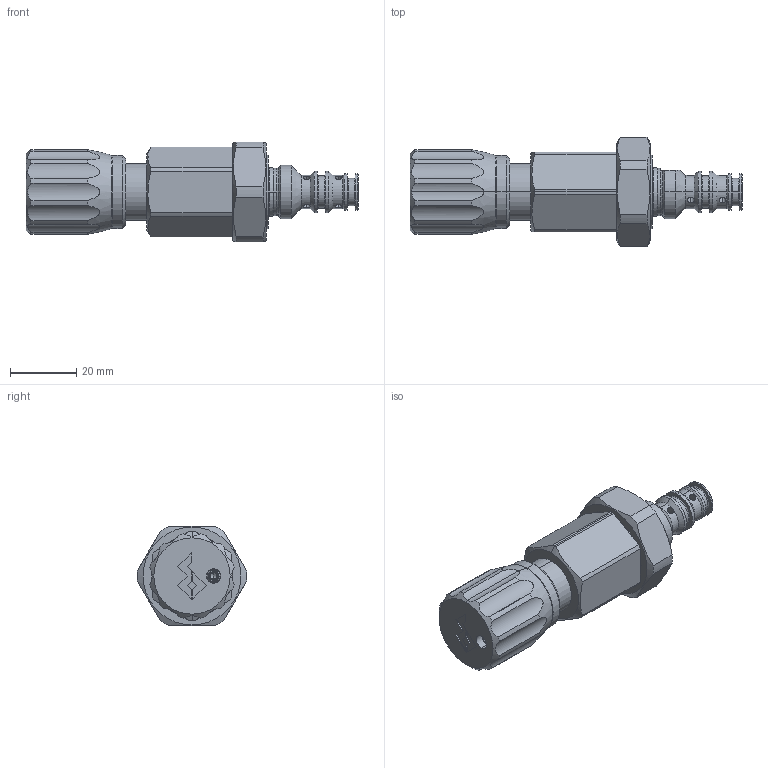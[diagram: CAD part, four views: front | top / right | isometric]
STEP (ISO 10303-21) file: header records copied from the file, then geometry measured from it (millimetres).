
FILE_DESCRIPTION (( 'STEP AP214' ), '1' );
FILE_NAME ('MDDPM16.STEP', '2014-07-14T12:23:34', ( '' ), ( '' ), 'SwSTEP 2.0', 'SolidWorks 2014', '' );
FILE_SCHEMA (( 'AUTOMOTIVE_DESIGN' ));
Length unit declared in the file: millimetre
Products named in the file (2): MDDPM16
Bounding box: 100 x 32.98 x 30 mm (x, y, z)
Volume: 37107.5 mm3; surface area: 14858 mm2
Topology: 7 solids, 7 shells, 350 faces, 877 edges, 547 vertices
Faces by surface type: cylinder 132, plane 128, cone 71, torus 19
Entity records: 15439 total; most frequent: CARTESIAN_POINT 3159, DIRECTION 1764, ORIENTED_EDGE 1730, EDGE_CURVE 865, AXIS2_PLACEMENT_3D 688, VERTEX_POINT 547, VECTOR 388, LINE 388
